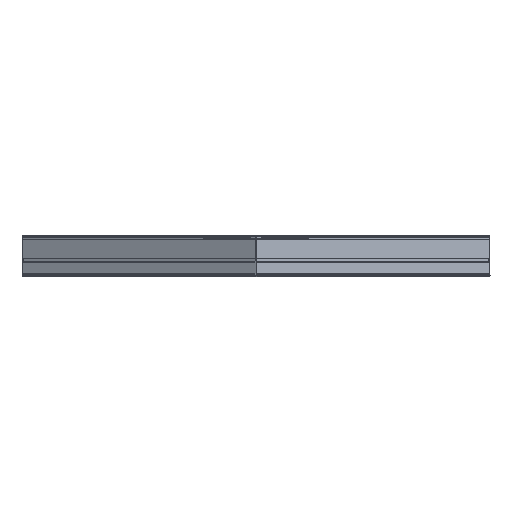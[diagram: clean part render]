
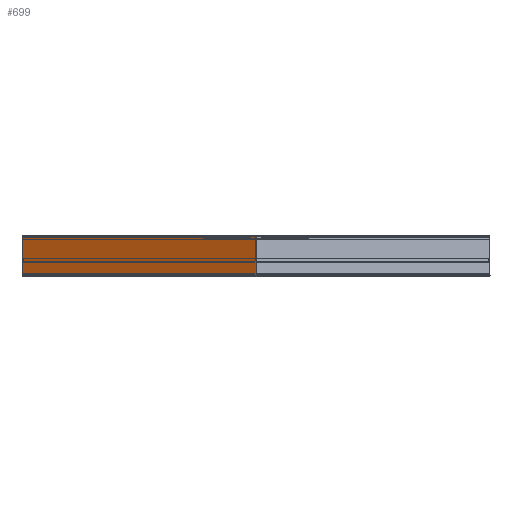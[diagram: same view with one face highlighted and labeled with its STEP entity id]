
A CAD part, top view. The second image highlights one B-rep face of the part: STEP entity #699.
In plain terms, the highlighted planar face has unit normal (-0.5, 0, 0.866) as drawn and (-1, 0, 0) by its records, which use the part's own axes.
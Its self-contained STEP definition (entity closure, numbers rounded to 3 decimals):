
#699=ADVANCED_FACE('',(#2714),#2716,.T.);
#2714=FACE_BOUND('',#2715,.T.);
#2715=EDGE_LOOP('',(#4848,#4849,#4850,#4851));
#2716=PLANE('',#2717);
#2717=AXIS2_PLACEMENT_3D('',#2718,#2719,#2720);
#2718=CARTESIAN_POINT('',(-17.5,4.,-266.5));
#2719=DIRECTION('',(-1.,0.,0.));
#2720=DIRECTION('',(0.,-1.,0.));
#4848=ORIENTED_EDGE('',*,*,#6375,.T.);
#4849=ORIENTED_EDGE('',*,*,#6374,.T.);
#4850=ORIENTED_EDGE('',*,*,#6376,.T.);
#4851=ORIENTED_EDGE('',*,*,#6377,.F.);
#6374=EDGE_CURVE('',#7944,#7946,#7948,.T.);
#6375=EDGE_CURVE('',#7949,#7944,#7950,.F.);
#6376=EDGE_CURVE('',#7946,#7951,#7952,.F.);
#6377=EDGE_CURVE('',#7949,#7951,#7953,.T.);
#7944=VERTEX_POINT('',#11536);
#7946=VERTEX_POINT('',#11541);
#7948=LINE('',#11546,#11547);
#7949=VERTEX_POINT('',#11549);
#7950=LINE('',#11550,#11551);
#7951=VERTEX_POINT('',#11553);
#7952=LINE('',#11554,#11555);
#7953=LINE('',#11557,#11558);
#11536=CARTESIAN_POINT('',(-17.5,-73.75,-266.5));
#11541=CARTESIAN_POINT('',(-17.5,-73.75,266.5));
#11546=CARTESIAN_POINT('',(-17.5,-73.75,-266.5));
#11547=VECTOR('',#11548,1.);
#11548=DIRECTION('',(0.,0.,1.));
#11549=CARTESIAN_POINT('',(-17.5,4.,-266.5));
#11550=CARTESIAN_POINT('',(-17.5,-73.75,-266.5));
#11551=VECTOR('',#11552,1.);
#11552=DIRECTION('',(0.,1.,0.));
#11553=CARTESIAN_POINT('',(-17.5,4.,266.5));
#11554=CARTESIAN_POINT('',(-17.5,4.,266.5));
#11555=VECTOR('',#11556,1.);
#11556=DIRECTION('',(0.,-1.,0.));
#11557=CARTESIAN_POINT('',(-17.5,4.,-266.5));
#11558=VECTOR('',#11559,1.);
#11559=DIRECTION('',(0.,0.,1.));
